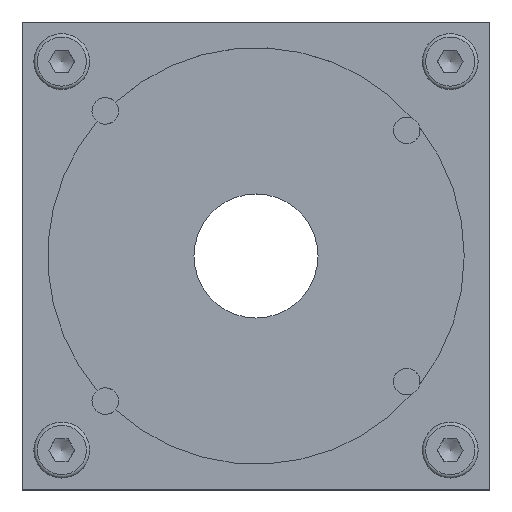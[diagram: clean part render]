
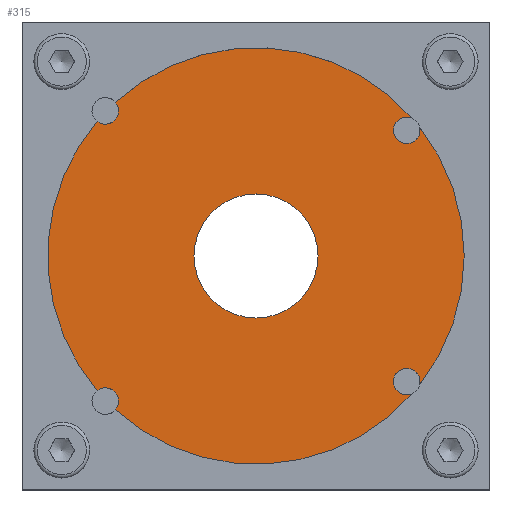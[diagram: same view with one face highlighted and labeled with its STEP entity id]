
A CAD part, top view. The second image highlights one B-rep face of the part: STEP entity #315.
In plain terms, the highlighted planar face has unit normal (0, 0, 1).
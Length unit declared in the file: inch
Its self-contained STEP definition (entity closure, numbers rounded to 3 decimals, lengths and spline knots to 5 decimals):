
#225=CARTESIAN_POINT('',(-1.18855,0.2583,0.285));
#226=DIRECTION('',(0.0,0.0,-1.0));
#227=DIRECTION('',(-1.0,0.0,0.0));
#228=AXIS2_PLACEMENT_3D('',#225,#226,#227);
#229=PLANE('',#228);
#230=CARTESIAN_POINT('',(-0.03432,-0.64999,0.285));
#231=VERTEX_POINT('',#230);
#232=CARTESIAN_POINT('',(-0.08701,-0.71321,0.285));
#233=VERTEX_POINT('',#232);
#234=CARTESIAN_POINT('',(-0.12556,-0.62752,0.285));
#235=DIRECTION('',(0.0,0.0,1.0));
#236=DIRECTION('',(-1.0,0.0,0.0));
#237=AXIS2_PLACEMENT_3D('',#234,#235,#236);
#238=CIRCLE('',#237,0.09396);
#239=EDGE_CURVE('',#231,#233,#238,.T.);
#240=ORIENTED_EDGE('',*,*,#239,.F.);
#241=CARTESIAN_POINT('',(-0.03432,1.16659,0.285));
#242=VERTEX_POINT('',#241);
#243=CARTESIAN_POINT('',(-1.18855,0.2583,0.285));
#244=DIRECTION('',(0.0,0.0,1.0));
#245=DIRECTION('',(-1.0,0.0,0.0));
#246=AXIS2_PLACEMENT_3D('',#243,#244,#245);
#247=CIRCLE('',#246,1.46875);
#248=EDGE_CURVE('',#231,#242,#247,.T.);
#249=ORIENTED_EDGE('',*,*,#248,.T.);
#250=CARTESIAN_POINT('',(-0.08701,1.22982,0.285));
#251=VERTEX_POINT('',#250);
#252=CARTESIAN_POINT('',(-0.12556,1.14413,0.285));
#253=DIRECTION('',(0.0,0.0,1.0));
#254=DIRECTION('',(-1.0,0.0,0.0));
#255=AXIS2_PLACEMENT_3D('',#252,#253,#254);
#256=CIRCLE('',#255,0.09396);
#257=EDGE_CURVE('',#251,#242,#256,.T.);
#258=ORIENTED_EDGE('',*,*,#257,.F.);
#259=CARTESIAN_POINT('',(-2.17957,1.34233,0.285));
#260=VERTEX_POINT('',#259);
#261=CARTESIAN_POINT('',(-1.18855,0.2583,0.285));
#262=DIRECTION('',(0.0,0.0,1.0));
#263=DIRECTION('',(-1.0,0.0,0.0));
#264=AXIS2_PLACEMENT_3D('',#261,#262,#263);
#265=CIRCLE('',#264,1.46875);
#266=EDGE_CURVE('',#251,#260,#265,.T.);
#267=ORIENTED_EDGE('',*,*,#266,.T.);
#268=CARTESIAN_POINT('',(-2.30918,1.20772,0.285));
#269=VERTEX_POINT('',#268);
#270=CARTESIAN_POINT('',(-2.25154,1.28192,0.285));
#271=DIRECTION('',(0.0,0.0,1.0));
#272=DIRECTION('',(-1.0,0.0,0.0));
#273=AXIS2_PLACEMENT_3D('',#270,#271,#272);
#274=CIRCLE('',#273,0.09396);
#275=EDGE_CURVE('',#269,#260,#274,.T.);
#276=ORIENTED_EDGE('',*,*,#275,.F.);
#277=CARTESIAN_POINT('',(-2.30918,-0.69112,0.285));
#278=VERTEX_POINT('',#277);
#279=CARTESIAN_POINT('',(-1.18855,0.2583,0.285));
#280=DIRECTION('',(0.0,0.0,1.0));
#281=DIRECTION('',(-1.0,0.0,0.0));
#282=AXIS2_PLACEMENT_3D('',#279,#280,#281);
#283=CIRCLE('',#282,1.46875);
#284=EDGE_CURVE('',#269,#278,#283,.T.);
#285=ORIENTED_EDGE('',*,*,#284,.T.);
#286=CARTESIAN_POINT('',(-2.17957,-0.82572,0.285));
#287=VERTEX_POINT('',#286);
#288=CARTESIAN_POINT('',(-2.25154,-0.76532,0.285));
#289=DIRECTION('',(0.0,0.0,1.0));
#290=DIRECTION('',(-1.0,0.0,0.0));
#291=AXIS2_PLACEMENT_3D('',#288,#289,#290);
#292=CIRCLE('',#291,0.09396);
#293=EDGE_CURVE('',#287,#278,#292,.T.);
#294=ORIENTED_EDGE('',*,*,#293,.F.);
#295=CARTESIAN_POINT('',(-1.18855,0.2583,0.285));
#296=DIRECTION('',(0.0,0.0,1.0));
#297=DIRECTION('',(-1.0,0.0,0.0));
#298=AXIS2_PLACEMENT_3D('',#295,#296,#297);
#299=CIRCLE('',#298,1.46875);
#300=EDGE_CURVE('',#287,#233,#299,.T.);
#301=ORIENTED_EDGE('',*,*,#300,.T.);
#302=EDGE_LOOP('',(#240,#249,#258,#267,#276,#285,#294,#301));
#303=FACE_OUTER_BOUND('',#302,.T.);
#304=CARTESIAN_POINT('',(-0.75105,0.2583,0.285));
#305=VERTEX_POINT('',#304);
#306=CARTESIAN_POINT('',(-1.18855,0.2583,0.285));
#307=DIRECTION('',(0.0,0.0,1.0));
#308=DIRECTION('',(-1.0,0.0,0.0));
#309=AXIS2_PLACEMENT_3D('',#306,#307,#308);
#310=CIRCLE('',#309,0.4375);
#311=EDGE_CURVE('',#305,#305,#310,.T.);
#312=ORIENTED_EDGE('',*,*,#311,.F.);
#313=EDGE_LOOP('',(#312));
#314=FACE_BOUND('',#313,.T.);
#315=ADVANCED_FACE('',(#303,#314),#229,.F.);
